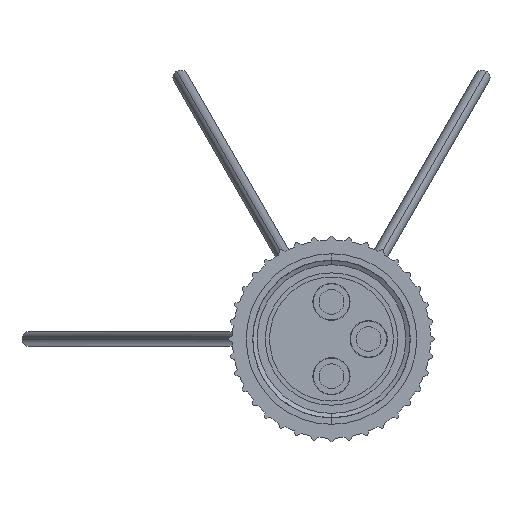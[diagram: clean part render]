
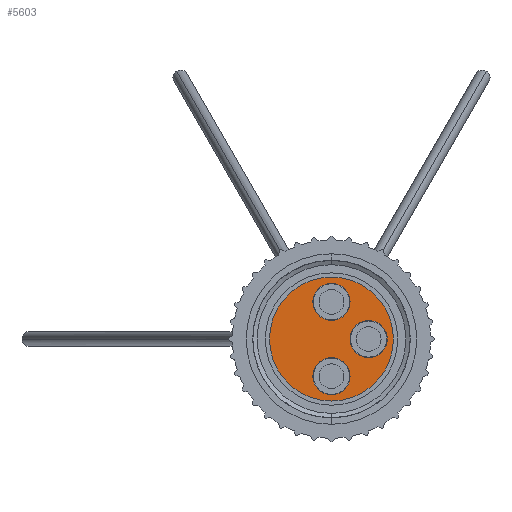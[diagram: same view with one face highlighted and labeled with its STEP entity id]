
A CAD part, front view. The second image highlights one B-rep face of the part: STEP entity #5603.
In plain terms, the highlighted planar face has unit normal (0, -1, 0).
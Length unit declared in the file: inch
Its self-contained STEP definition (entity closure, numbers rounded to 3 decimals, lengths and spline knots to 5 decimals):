
#470=CARTESIAN_POINT('',(0.,-1.30058,0.));
#471=DIRECTION('',(0.,-1.,0.));
#472=DIRECTION('',(0.,0.,1.));
#473=AXIS2_PLACEMENT_3D('',#470,#471,#472);
#475=CARTESIAN_POINT('',(0.,-1.30058,0.));
#476=DIRECTION('',(0.,-1.,0.));
#477=DIRECTION('',(0.,0.,-1.));
#478=AXIS2_PLACEMENT_3D('',#475,#476,#477);
#490=CARTESIAN_POINT('',(0.,-1.30058,0.075));
#491=DIRECTION('',(0.,-1.,0.));
#492=DIRECTION('',(0.,0.,-1.));
#493=AXIS2_PLACEMENT_3D('',#490,#491,#492);
#495=CARTESIAN_POINT('',(0.,-1.30058,0.075));
#496=DIRECTION('',(0.,-1.,0.));
#497=DIRECTION('',(0.,0.,1.));
#498=AXIS2_PLACEMENT_3D('',#495,#496,#497);
#500=CARTESIAN_POINT('',(0.075,-1.30058,0.));
#501=DIRECTION('',(0.,-1.,0.));
#502=DIRECTION('',(0.,0.,-1.));
#503=AXIS2_PLACEMENT_3D('',#500,#501,#502);
#505=CARTESIAN_POINT('',(0.075,-1.30058,0.));
#506=DIRECTION('',(0.,-1.,0.));
#507=DIRECTION('',(0.,0.,1.));
#508=AXIS2_PLACEMENT_3D('',#505,#506,#507);
#510=CARTESIAN_POINT('',(0.,-1.30058,-0.075));
#511=DIRECTION('',(0.,-1.,0.));
#512=DIRECTION('',(0.,0.,-1.));
#513=AXIS2_PLACEMENT_3D('',#510,#511,#512);
#515=CARTESIAN_POINT('',(0.,-1.30058,-0.075));
#516=DIRECTION('',(0.,-1.,0.));
#517=DIRECTION('',(0.,0.,1.));
#518=AXIS2_PLACEMENT_3D('',#515,#516,#517);
#4874=CARTESIAN_POINT('',(0.,-1.30058,0.0375));
#4875=CARTESIAN_POINT('',(0.,-1.30058,0.1125));
#4876=VERTEX_POINT('',#4874);
#4877=VERTEX_POINT('',#4875);
#4878=CARTESIAN_POINT('',(0.075,-1.30058,-0.0375));
#4879=CARTESIAN_POINT('',(0.075,-1.30058,0.0375));
#4880=VERTEX_POINT('',#4878);
#4881=VERTEX_POINT('',#4879);
#4882=CARTESIAN_POINT('',(0.,-1.30058,-0.1125));
#4883=CARTESIAN_POINT('',(0.,-1.30058,-0.0375));
#4884=VERTEX_POINT('',#4882);
#4885=VERTEX_POINT('',#4883);
#5019=CARTESIAN_POINT('',(0.,-1.30058,0.125));
#5020=CARTESIAN_POINT('',(0.,-1.30058,-0.125));
#5021=VERTEX_POINT('',#5019);
#5022=VERTEX_POINT('',#5020);
#5574=CARTESIAN_POINT('',(0.,-1.30058,0.));
#5575=DIRECTION('',(0.,1.,0.));
#5576=DIRECTION('',(0.,0.,-1.));
#5577=AXIS2_PLACEMENT_3D('',#5574,#5575,#5576);
#5578=PLANE('',#5577);
#5580=ORIENTED_EDGE('',*,*,#5579,.F.);
#5582=ORIENTED_EDGE('',*,*,#5581,.F.);
#5583=EDGE_LOOP('',(#5580,#5582));
#5584=FACE_OUTER_BOUND('',#5583,.F.);
#5586=ORIENTED_EDGE('',*,*,#5585,.T.);
#5588=ORIENTED_EDGE('',*,*,#5587,.T.);
#5589=EDGE_LOOP('',(#5586,#5588));
#5590=FACE_BOUND('',#5589,.F.);
#5592=ORIENTED_EDGE('',*,*,#5591,.T.);
#5594=ORIENTED_EDGE('',*,*,#5593,.T.);
#5595=EDGE_LOOP('',(#5592,#5594));
#5596=FACE_BOUND('',#5595,.F.);
#5598=ORIENTED_EDGE('',*,*,#5597,.T.);
#5600=ORIENTED_EDGE('',*,*,#5599,.T.);
#5601=EDGE_LOOP('',(#5598,#5600));
#5602=FACE_BOUND('',#5601,.F.);
#5603=ADVANCED_FACE('',(#5584,#5590,#5596,#5602),#5578,.F.);
#474=CIRCLE('',#473,0.125);
#479=CIRCLE('',#478,0.125);
#494=CIRCLE('',#493,0.0375);
#499=CIRCLE('',#498,0.0375);
#504=CIRCLE('',#503,0.0375);
#509=CIRCLE('',#508,0.0375);
#514=CIRCLE('',#513,0.0375);
#519=CIRCLE('',#518,0.0375);
#5579=EDGE_CURVE('',#5021,#5022,#474,.T.);
#5581=EDGE_CURVE('',#5022,#5021,#479,.T.);
#5585=EDGE_CURVE('',#4876,#4877,#494,.T.);
#5587=EDGE_CURVE('',#4877,#4876,#499,.T.);
#5591=EDGE_CURVE('',#4880,#4881,#504,.T.);
#5593=EDGE_CURVE('',#4881,#4880,#509,.T.);
#5597=EDGE_CURVE('',#4884,#4885,#514,.T.);
#5599=EDGE_CURVE('',#4885,#4884,#519,.T.);
